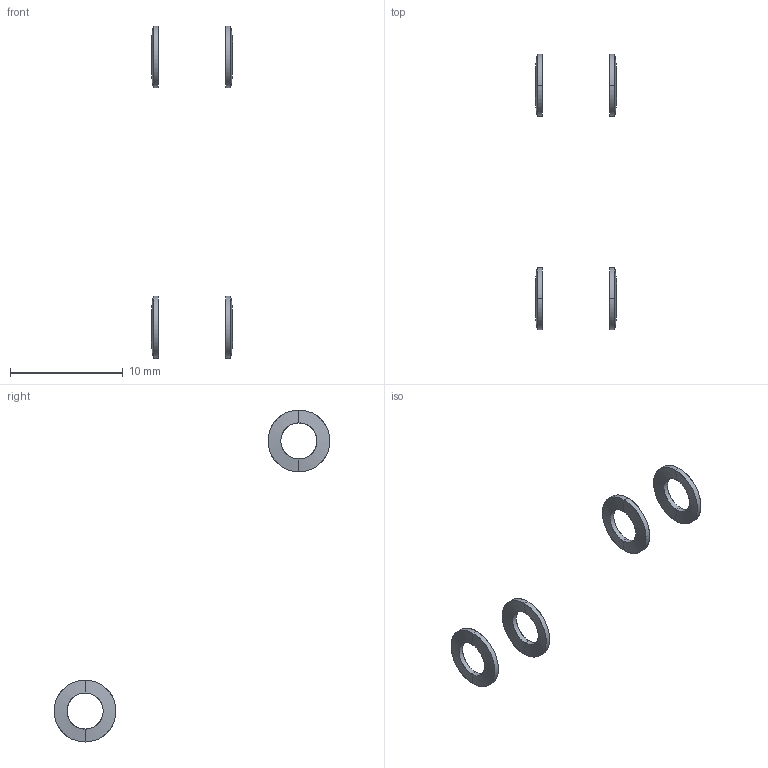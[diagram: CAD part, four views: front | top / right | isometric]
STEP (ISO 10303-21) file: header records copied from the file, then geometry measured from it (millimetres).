
FILE_DESCRIPTION(/* description */ (''),/* implementation_level */ '2;1');
FILE_NAME(/* name */ '1.frame-bottom#1.8#GTS3',/* time_stamp */ '2014-12-01T20:11:32+01:00',/* author */ (''),/* organization */ (''),/* preprocessor_version */ 'ST-DEVELOPER v14',/* originating_system */ '',/* authorisation */ '');
FILE_SCHEMA (('AUTOMOTIVE_DESIGN'));
Length unit declared in the file: millimetre
Products named in the file (2): Document; washer Schnorr-like, lock, M3
Assembly tree (2 placements, depth 2):
  Document
    washer Schnorr-like, lock, M3  x2
Bounding box: 7.2 x 24.49 x 29.5 mm (x, y, z)
Surface area: 176.1 mm2 (no closed solid volume)
Topology: 0 solids, 32 shells, 32 faces, 128 edges, 128 vertices
Faces by surface type: bspline 32
Entity records: 2175 total; most frequent: CARTESIAN_POINT 1061, B_SPLINE_CURVE_WITH_KNOTS 144, ORIENTED_EDGE 96, PCURVE 96, DEFINITIONAL_REPRESENTATION 96, SURFACE_CURVE 96, EDGE_CURVE 96, VERTEX_POINT 96
